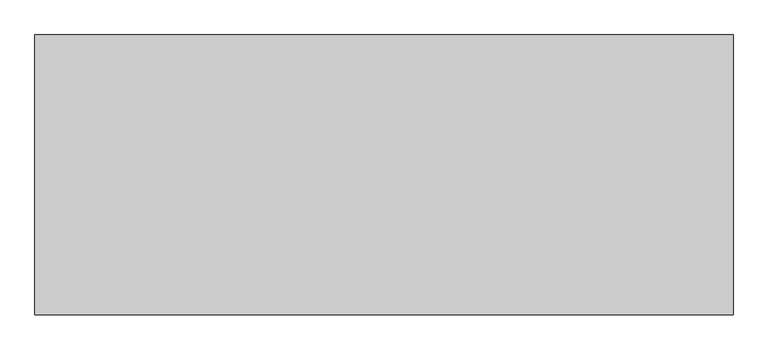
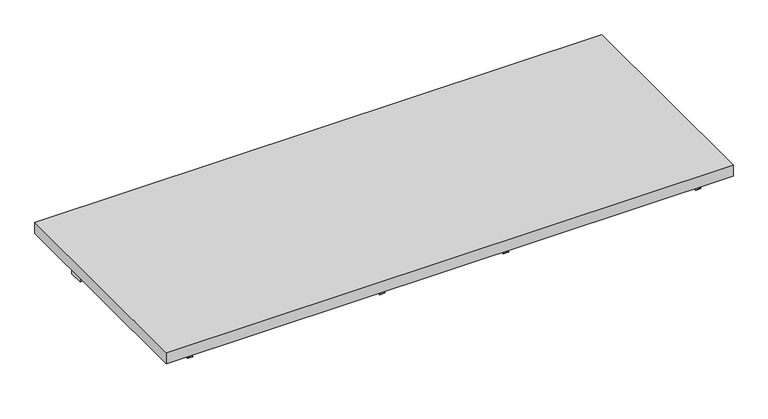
"""IFC4 building model written with IfcOpenShell, lengths in millimetres: furniture geometry."""

from ifc_helpers import new_model, si_unit, frame, origin, place, context, project, spatial, polyline, outline, extrude, source, transform, mapped, element, save


def furniture_f2a341e6(model_context):
    return source(origin(), model_context, "Body", "SweptSolid", [
        extrude(outline(polyline([(1217.6125, 177.8), (1217.6125, -431.8), (-303.2125, -431.8), (-303.2125, 177.8), (1217.6125, 177.8)])), frame((0.0, 0.0, 882.65), z_axis=(0.0, 0.0, 1.0), x_axis=(1.0, 0.0, 0.0)), (0.0, 0.0, 1.0), 31.75),
        extrude(outline(polyline([(1184.275, 63.5), (1184.275, 25.4), (-269.875, 25.4), (-269.875, 63.5), (1184.275, 63.5)])), frame((0.0, 0.0, 825.5), z_axis=(0.0, 0.0, 1.0), x_axis=(1.0, 0.0, 0.0)), (0.0, 0.0, 1.0), 57.15),
        extrude(outline(polyline([(858.8375, 617.5375), (882.65, 617.5375), (882.65, 615.95), (857.25, 615.95), (857.25, 630.2375), (858.8375, 630.2375), (858.8375, 617.5375)])), frame((0.0, -406.4, 0.0), z_axis=(0.0, 1.0, 0.0), x_axis=(0.0, 0.0, 1.0)), (0.0, 0.0, 1.0), 390.525),
        extrude(outline(polyline([(858.8375, 296.8625), (858.8375, 284.1625), (857.25, 284.1625), (857.25, 298.45), (882.65, 298.45), (882.65, 296.8625), (858.8375, 296.8625)])), frame((0.0, -406.4, 0.0), z_axis=(0.0, 1.0, 0.0), x_axis=(0.0, 0.0, 1.0)), (0.0, 0.0, 1.0), 390.525),
        extrude(outline(polyline([(858.8375, -230.1875), (882.65, -230.1875), (882.65, -231.775), (857.25, -231.775), (857.25, -217.4875), (858.8375, -217.4875), (858.8375, -230.1875)])), frame((0.0, -406.4, 0.0), z_axis=(0.0, 1.0, 0.0), x_axis=(0.0, 0.0, 1.0)), (0.0, 0.0, 1.0), 390.525),
        extrude(outline(polyline([(858.8375, 1144.5875), (858.8375, 1131.8875), (857.25, 1131.8875), (857.25, 1146.175), (882.65, 1146.175), (882.65, 1144.5875), (858.8375, 1144.5875)])), frame((0.0, -406.4, 0.0), z_axis=(0.0, 1.0, 0.0), x_axis=(0.0, 0.0, 1.0)), (0.0, 0.0, 1.0), 390.525),
    ])


if __name__ == "__main__":
    model = new_model("IFC4")
    model_context = context("Model", 3, world=origin())
    ifc_project = project(units=[si_unit("LENGTHUNIT", "METRE", prefix="MILLI")], contexts=[model_context])
    site = spatial("IfcSite", under=ifc_project)
    building = spatial("IfcBuilding", under=site)
    placement = place(None, origin())
    furniture_shape = furniture_f2a341e6(model_context)
    element("IfcFurniture", 1, ObjectType="HermanMiller_CoStruc_C2141_Heavy-DutyWorkSurface : 24\"D x 60\"W Lam", at=placement, inside=building, context=model_context, shape_type="MappedRepresentation", body=[
        mapped(furniture_shape, transform((0.0, 0.0, 0.0), x_axis=(1.0, 0.0, 0.0), y_axis=(0.0, 1.0, 0.0), z_axis=(0.0, 0.0, 1.0))),
    ])
    save(model, "model.ifc")
